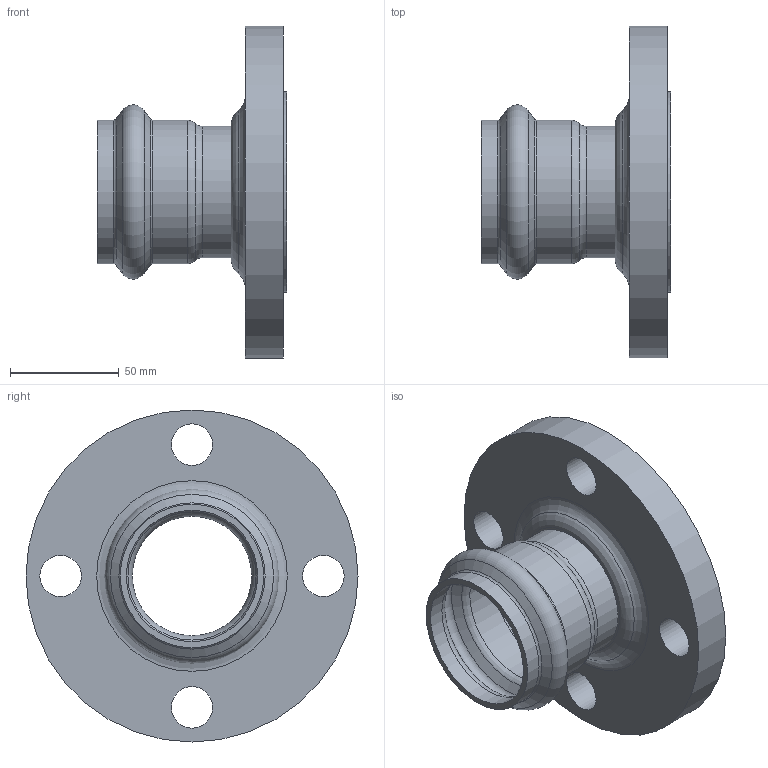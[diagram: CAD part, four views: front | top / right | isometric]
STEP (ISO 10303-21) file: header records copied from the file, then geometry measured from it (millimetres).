
FILE_DESCRIPTION(/* description */ ('VIC FLANGE ADAPTER STYLE P595','CAx-IF Rec.Pracs.---Representation and Presentation of Product Manufacturing Information (PMI)---4.0---2014-10-13'),/* implementation_level */ '2;1');
FILE_NAME(/* name */ 'C:\Users\Vjadhav\AppData\Roaming\Autodesk\ApplicationPlugins\Back Up\Victaulic_SS-Vic-Press-TP 304_Flange Adapter_CL 150 RF_Style P595 (VPxFLG)\Victaulic_SS-Vic-Press-TP 304_Flange Adapter_CL 150 RF_Style P595 (VPxFLG)_2 (50).stp',/* time_stamp */ '2020-08-12T17:42:03+05:00',/* author */ ('cgray'),/* organization */ ('Victaulic'),/* preprocessor_version */ 'ST-DEVELOPER v17.2',/* originating_system */ 'Autodesk Inventor 2019',/* authorisation */ '');
FILE_SCHEMA (('AP242_MANAGED_MODEL_BASED_3D_ENGINEERING_MIM_LF { 1 0 10303 442 1 1 4 }'));
Length unit declared in the file: inch
Products named in the file (1): P595-02.0
Bounding box: 86.87 x 152.4 x 152.4 mm (x, y, z)
Volume: 316186 mm3; surface area: 74955.8 mm2
Topology: 1 solids, 1 shells, 33 faces, 114 edges, 86 vertices
Faces by surface type: cylinder 12, torus 12, plane 5, cone 4
Full cylindrical faces by diameter (mm): 19.05 x4, 54.788 x1, 60.325 x3, 65.862 x2, 91.948 x1, 152.4 x1
Entity records: 1531 total; most frequent: DIRECTION 306, CARTESIAN_POINT 251, ORIENTED_EDGE 228, AXIS2_PLACEMENT_3D 145, EDGE_CURVE 114, CIRCLE 98, VERTEX_POINT 86, EDGE_LOOP 46
